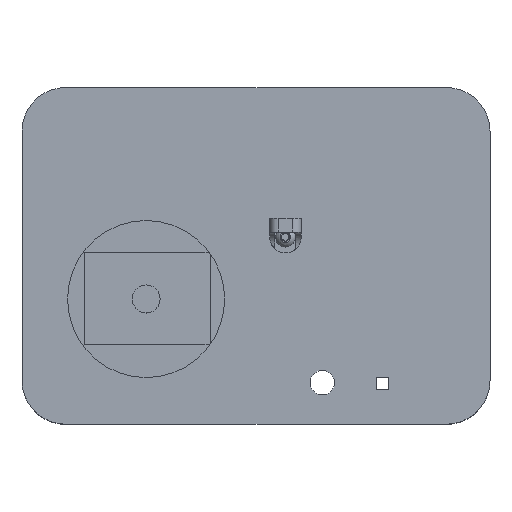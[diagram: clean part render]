
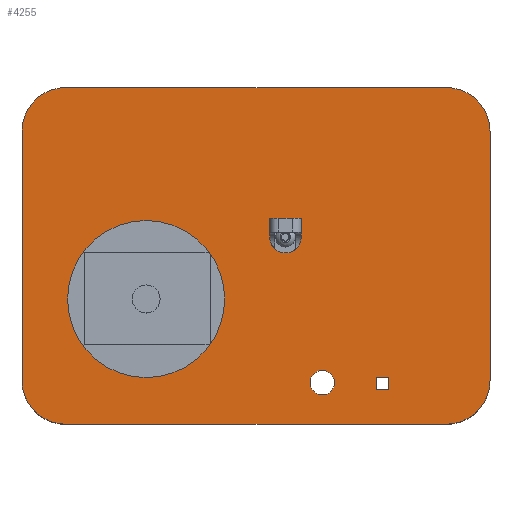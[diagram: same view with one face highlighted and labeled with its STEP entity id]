
A CAD part, top view. The second image highlights one B-rep face of the part: STEP entity #4255.
In plain terms, the highlighted planar face has unit normal (0, 0, 1).
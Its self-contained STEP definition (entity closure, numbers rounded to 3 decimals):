
#302=FACE_BOUND('',#719,.T.);
#303=FACE_BOUND('',#720,.T.);
#304=FACE_BOUND('',#721,.T.);
#305=FACE_BOUND('',#722,.T.);
#446=FACE_OUTER_BOUND('',#718,.T.);
#718=EDGE_LOOP('',(#3441,#3442,#3443,#3444,#3445,#3446,#3447,#3448));
#719=EDGE_LOOP('',(#3449));
#720=EDGE_LOOP('',(#3450,#3451,#3452,#3453));
#721=EDGE_LOOP('',(#3454));
#722=EDGE_LOOP('',(#3455));
#1067=LINE('',#8612,#1422);
#1068=LINE('',#8616,#1423);
#1069=LINE('',#8620,#1424);
#1070=LINE('',#8623,#1425);
#1071=LINE('',#8628,#1426);
#1072=LINE('',#8630,#1427);
#1073=LINE('',#8632,#1428);
#1074=LINE('',#8633,#1429);
#1422=VECTOR('',#5492,10.);
#1423=VECTOR('',#5495,10.);
#1424=VECTOR('',#5498,10.);
#1425=VECTOR('',#5501,10.);
#1426=VECTOR('',#5504,10.);
#1427=VECTOR('',#5505,10.);
#1428=VECTOR('',#5506,10.);
#1429=VECTOR('',#5507,10.);
#1636=CIRCLE('',#4626,12.5);
#1637=CIRCLE('',#4627,12.5);
#1638=CIRCLE('',#4628,12.5);
#1639=CIRCLE('',#4629,12.5);
#1640=CIRCLE('',#4630,2.3);
#1641=CIRCLE('',#4631,22.5);
#1642=CIRCLE('',#4632,3.5);
#1978=VERTEX_POINT('',#8608);
#1979=VERTEX_POINT('',#8609);
#1980=VERTEX_POINT('',#8611);
#1981=VERTEX_POINT('',#8613);
#1982=VERTEX_POINT('',#8615);
#1983=VERTEX_POINT('',#8617);
#1984=VERTEX_POINT('',#8619);
#1985=VERTEX_POINT('',#8621);
#1986=VERTEX_POINT('',#8624);
#1987=VERTEX_POINT('',#8626);
#1988=VERTEX_POINT('',#8627);
#1989=VERTEX_POINT('',#8629);
#1990=VERTEX_POINT('',#8631);
#1991=VERTEX_POINT('',#8634);
#1992=VERTEX_POINT('',#8636);
#2494=EDGE_CURVE('',#1978,#1979,#1636,.T.);
#2495=EDGE_CURVE('',#1979,#1980,#1067,.T.);
#2496=EDGE_CURVE('',#1980,#1981,#1637,.T.);
#2497=EDGE_CURVE('',#1981,#1982,#1068,.T.);
#2498=EDGE_CURVE('',#1982,#1983,#1638,.T.);
#2499=EDGE_CURVE('',#1983,#1984,#1069,.T.);
#2500=EDGE_CURVE('',#1984,#1985,#1639,.T.);
#2501=EDGE_CURVE('',#1985,#1978,#1070,.T.);
#2502=EDGE_CURVE('',#1986,#1986,#1640,.T.);
#2503=EDGE_CURVE('',#1987,#1988,#1071,.T.);
#2504=EDGE_CURVE('',#1988,#1989,#1072,.T.);
#2505=EDGE_CURVE('',#1989,#1990,#1073,.T.);
#2506=EDGE_CURVE('',#1990,#1987,#1074,.T.);
#2507=EDGE_CURVE('',#1991,#1991,#1641,.T.);
#2508=EDGE_CURVE('',#1992,#1992,#1642,.T.);
#3441=ORIENTED_EDGE('',*,*,#2494,.T.);
#3442=ORIENTED_EDGE('',*,*,#2495,.T.);
#3443=ORIENTED_EDGE('',*,*,#2496,.T.);
#3444=ORIENTED_EDGE('',*,*,#2497,.T.);
#3445=ORIENTED_EDGE('',*,*,#2498,.T.);
#3446=ORIENTED_EDGE('',*,*,#2499,.T.);
#3447=ORIENTED_EDGE('',*,*,#2500,.T.);
#3448=ORIENTED_EDGE('',*,*,#2501,.T.);
#3449=ORIENTED_EDGE('',*,*,#2502,.T.);
#3450=ORIENTED_EDGE('',*,*,#2503,.T.);
#3451=ORIENTED_EDGE('',*,*,#2504,.T.);
#3452=ORIENTED_EDGE('',*,*,#2505,.T.);
#3453=ORIENTED_EDGE('',*,*,#2506,.T.);
#3454=ORIENTED_EDGE('',*,*,#2507,.T.);
#3455=ORIENTED_EDGE('',*,*,#2508,.T.);
#4080=PLANE('',#4625);
#4255=ADVANCED_FACE('',(#446,#302,#303,#304,#305),#4080,.F.);
#4625=AXIS2_PLACEMENT_3D('',#8607,#5488,#5489);
#4626=AXIS2_PLACEMENT_3D('',#8610,#5490,#5491);
#4627=AXIS2_PLACEMENT_3D('',#8614,#5493,#5494);
#4628=AXIS2_PLACEMENT_3D('',#8618,#5496,#5497);
#4629=AXIS2_PLACEMENT_3D('',#8622,#5499,#5500);
#4630=AXIS2_PLACEMENT_3D('',#8625,#5502,#5503);
#4631=AXIS2_PLACEMENT_3D('',#8635,#5508,#5509);
#4632=AXIS2_PLACEMENT_3D('',#8637,#5510,#5511);
#5488=DIRECTION('center_axis',(0.,0.,-1.));
#5489=DIRECTION('ref_axis',(1.,0.,0.));
#5490=DIRECTION('center_axis',(0.,0.,1.));
#5491=DIRECTION('ref_axis',(0.707,-0.707,0.));
#5492=DIRECTION('',(0.,1.,0.));
#5493=DIRECTION('center_axis',(0.,0.,1.));
#5494=DIRECTION('ref_axis',(0.707,0.707,0.));
#5495=DIRECTION('',(-1.,0.,0.));
#5496=DIRECTION('center_axis',(0.,0.,1.));
#5497=DIRECTION('ref_axis',(-0.707,0.707,0.));
#5498=DIRECTION('',(0.,-1.,0.));
#5499=DIRECTION('center_axis',(0.,0.,1.));
#5500=DIRECTION('ref_axis',(-0.707,-0.707,0.));
#5501=DIRECTION('',(1.,0.,0.));
#5502=DIRECTION('center_axis',(0.,0.,-1.));
#5503=DIRECTION('ref_axis',(1.,0.,0.));
#5504=DIRECTION('',(-1.,0.,0.));
#5505=DIRECTION('',(0.,1.,0.));
#5506=DIRECTION('',(1.,0.,0.));
#5507=DIRECTION('',(0.,-1.,0.));
#5508=DIRECTION('center_axis',(0.,0.,-1.));
#5509=DIRECTION('ref_axis',(1.,0.,0.));
#5510=DIRECTION('center_axis',(0.,0.,-1.));
#5511=DIRECTION('ref_axis',(1.,0.,0.));
#8607=CARTESIAN_POINT('Origin',(36.314,13.234,1.4));
#8608=CARTESIAN_POINT('',(90.839,-34.989,1.4));
#8609=CARTESIAN_POINT('',(103.339,-22.489,1.4));
#8610=CARTESIAN_POINT('Origin',(90.839,-22.489,1.4));
#8611=CARTESIAN_POINT('',(103.339,48.957,1.4));
#8612=CARTESIAN_POINT('',(103.339,-34.989,1.4));
#8613=CARTESIAN_POINT('',(90.839,61.457,1.4));
#8614=CARTESIAN_POINT('Origin',(90.839,48.957,1.4));
#8615=CARTESIAN_POINT('',(-18.212,61.457,1.4));
#8616=CARTESIAN_POINT('',(103.339,61.457,1.4));
#8617=CARTESIAN_POINT('',(-30.712,48.957,1.4));
#8618=CARTESIAN_POINT('Origin',(-18.212,48.957,1.4));
#8619=CARTESIAN_POINT('',(-30.712,-22.489,1.4));
#8620=CARTESIAN_POINT('',(-30.712,61.457,1.4));
#8621=CARTESIAN_POINT('',(-18.212,-34.989,1.4));
#8622=CARTESIAN_POINT('Origin',(-18.212,-22.489,1.4));
#8623=CARTESIAN_POINT('',(-30.712,-34.989,1.4));
#8624=CARTESIAN_POINT('',(42.441,18.563,1.4));
#8625=CARTESIAN_POINT('Origin',(44.741,18.563,1.4));
#8626=CARTESIAN_POINT('',(74.162,-24.964,1.4));
#8627=CARTESIAN_POINT('',(70.724,-24.964,1.4));
#8628=CARTESIAN_POINT('',(74.162,-24.964,1.4));
#8629=CARTESIAN_POINT('',(70.724,-21.526,1.4));
#8630=CARTESIAN_POINT('',(70.724,-24.964,1.4));
#8631=CARTESIAN_POINT('',(74.162,-21.526,1.4));
#8632=CARTESIAN_POINT('',(70.724,-21.526,1.4));
#8633=CARTESIAN_POINT('',(74.162,-21.526,1.4));
#8634=CARTESIAN_POINT('',(-17.666,0.86,1.4));
#8635=CARTESIAN_POINT('Origin',(4.834,0.86,1.4));
#8636=CARTESIAN_POINT('',(51.834,-23.072,1.4));
#8637=CARTESIAN_POINT('Origin',(55.334,-23.072,1.4));
